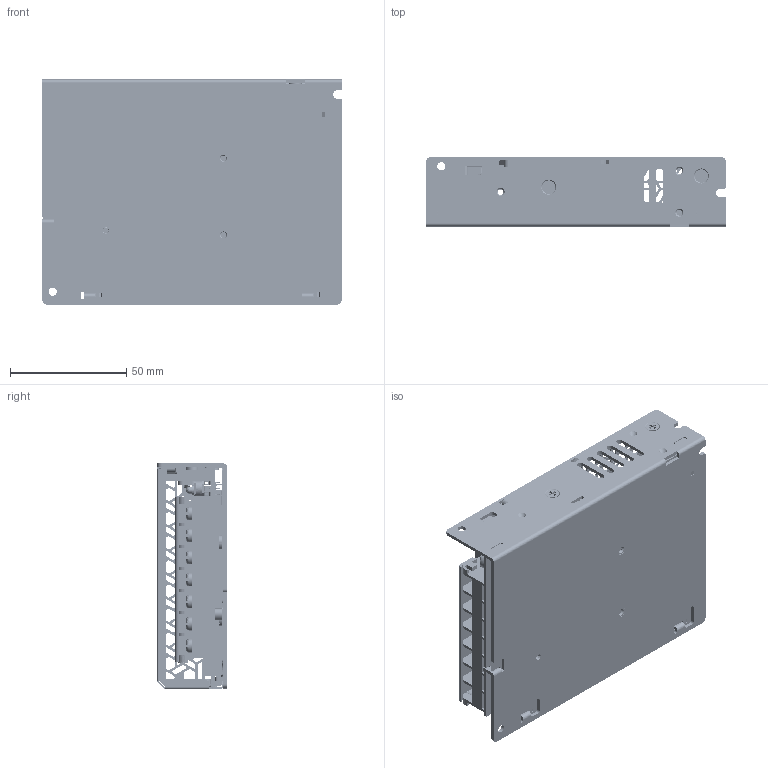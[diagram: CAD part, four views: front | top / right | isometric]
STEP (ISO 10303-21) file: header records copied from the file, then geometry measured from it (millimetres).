
FILE_DESCRIPTION((''),'2;1');
FILE_NAME('C','2022-08-26T',('pe202'),(''),'PRO/ENGINEER BY PARAMETRIC TECHNOLOGY CORPORATION, 2014000','PRO/ENGINEER BY PARAMETRIC TECHNOLOGY CORPORATION, 2014000','');
FILE_SCHEMA(('CONFIG_CONTROL_DESIGN','GEOMETRIC_VALIDATION_PROPERTIES_MIM'));
Products named in the file (1): C
Bounding box: 129 x 30 x 97 mm (x, y, z)
Volume: 65055.5 mm3; surface area: 102861.2 mm2
Topology: 2 solids, 50 shells, 6330 faces, 18660 edges, 12378 vertices
Faces by surface type: bspline 3928, revolution 2402
Entity records: 311019 total; most frequent: CARTESIAN_POINT 117668, ORIENTED_EDGE 37228, DIRECTION 25116, EDGE_CURVE 18642, VECTOR 12396, LINE 12396, VERTEX_POINT 12379, EDGE_LOOP 7453
